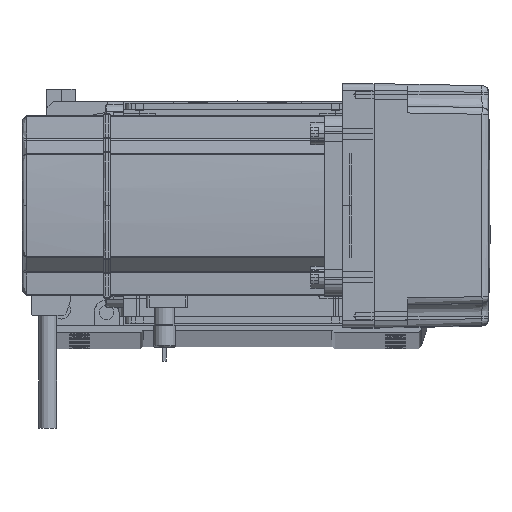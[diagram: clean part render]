
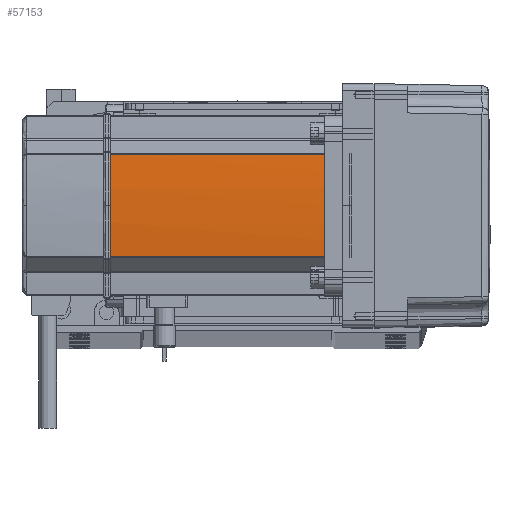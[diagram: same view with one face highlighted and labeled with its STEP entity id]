
A CAD part, top view. The second image highlights one B-rep face of the part: STEP entity #57153.
In plain terms, the highlighted cylindrical face has radius 270 mm (diameter 540 mm), a partial arc.
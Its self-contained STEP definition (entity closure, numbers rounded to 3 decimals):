
#1434 = CARTESIAN_POINT ( 'NONE',  ( 230., 0., 0. ) ) ;
#4643 = VECTOR ( 'NONE', #23316, 1000. ) ;
#8324 = DIRECTION ( 'NONE',  ( 1., 0., 0. ) ) ;
#8678 = AXIS2_PLACEMENT_3D ( 'NONE', #33002, #38943, #23229 ) ;
#13304 = VERTEX_POINT ( 'NONE', #48944 ) ;
#14234 = DIRECTION ( 'NONE',  ( 0., 0., -1. ) ) ;
#15509 = CARTESIAN_POINT ( 'NONE',  ( -39.042, 22.724, 39. ) ) ;
#16246 = EDGE_CURVE ( 'NONE', #30339, #69889, #48083, .T. ) ;
#17527 = EDGE_LOOP ( 'NONE', ( #24026, #51351, #65247, #31223, #35890 ) ) ;
#17727 = EDGE_CURVE ( 'NONE', #13304, #31545, #52125, .T. ) ;
#18202 = DIRECTION ( 'NONE',  ( 0., 0., 1. ) ) ;
#18263 = AXIS2_PLACEMENT_3D ( 'NONE', #34914, #41367, #8324 ) ;
#22156 = CIRCLE ( 'NONE', #8678, 270. ) ;
#23229 = DIRECTION ( 'NONE',  ( 1., 0., 0. ) ) ;
#23316 = DIRECTION ( 'NONE',  ( 0., 0., -1. ) ) ;
#24026 = ORIENTED_EDGE ( 'NONE', *, *, #17727, .T. ) ;
#27933 = CARTESIAN_POINT ( 'NONE',  ( -40., 0., 134. ) ) ;
#29316 = CARTESIAN_POINT ( 'NONE',  ( -39.042, 22.724, 134. ) ) ;
#30339 = VERTEX_POINT ( 'NONE', #29316 ) ;
#31223 = ORIENTED_EDGE ( 'NONE', *, *, #62095, .F. ) ;
#31545 = VERTEX_POINT ( 'NONE', #27933 ) ;
#33002 = CARTESIAN_POINT ( 'NONE',  ( 230., 0., 134. ) ) ;
#34193 = FACE_OUTER_BOUND ( 'NONE', #17527, .T. ) ;
#34914 = CARTESIAN_POINT ( 'NONE',  ( 230., 0., 39. ) ) ;
#35748 = AXIS2_PLACEMENT_3D ( 'NONE', #1434, #45490, #39482 ) ;
#35890 = ORIENTED_EDGE ( 'NONE', *, *, #41606, .T. ) ;
#38943 = DIRECTION ( 'NONE',  ( 0., 0., -1. ) ) ;
#39482 = DIRECTION ( 'NONE',  ( 1., 0., 0. ) ) ;
#39529 = VECTOR ( 'NONE', #18202, 1000. ) ;
#41367 = DIRECTION ( 'NONE',  ( 0., 0., -1. ) ) ;
#41606 = EDGE_CURVE ( 'NONE', #53710, #13304, #66821, .T. ) ;
#44975 = EDGE_CURVE ( 'NONE', #31545, #30339, #22156, .T. ) ;
#45490 = DIRECTION ( 'NONE',  ( 0., 0., 1. ) ) ;
#45518 = CARTESIAN_POINT ( 'NONE',  ( -39.042, 22.724, 0. ) ) ;
#48083 = LINE ( 'NONE', #45518, #4643 ) ;
#48944 = CARTESIAN_POINT ( 'NONE',  ( -39.042, -22.724, 134. ) ) ;
#51351 = ORIENTED_EDGE ( 'NONE', *, *, #44975, .T. ) ;
#52125 = CIRCLE ( 'NONE', #70019, 270. ) ;
#53710 = VERTEX_POINT ( 'NONE', #61230 ) ;
#56089 = CARTESIAN_POINT ( 'NONE',  ( -39.042, -22.724, 0. ) ) ;
#57153 = ADVANCED_FACE ( 'NONE', ( #34193 ), #61402, .T. ) ;
#57367 = CIRCLE ( 'NONE', #18263, 270. ) ;
#61230 = CARTESIAN_POINT ( 'NONE',  ( -39.042, -22.724, 39. ) ) ;
#61402 = CYLINDRICAL_SURFACE ( 'NONE', #35748, 270. ) ;
#62095 = EDGE_CURVE ( 'NONE', #53710, #69889, #57367, .T. ) ;
#63037 = CARTESIAN_POINT ( 'NONE',  ( 230., 0., 134. ) ) ;
#65247 = ORIENTED_EDGE ( 'NONE', *, *, #16246, .T. ) ;
#66821 = LINE ( 'NONE', #56089, #39529 ) ;
#68482 = DIRECTION ( 'NONE',  ( 1., 0., 0. ) ) ;
#69889 = VERTEX_POINT ( 'NONE', #15509 ) ;
#70019 = AXIS2_PLACEMENT_3D ( 'NONE', #63037, #14234, #68482 ) ;
